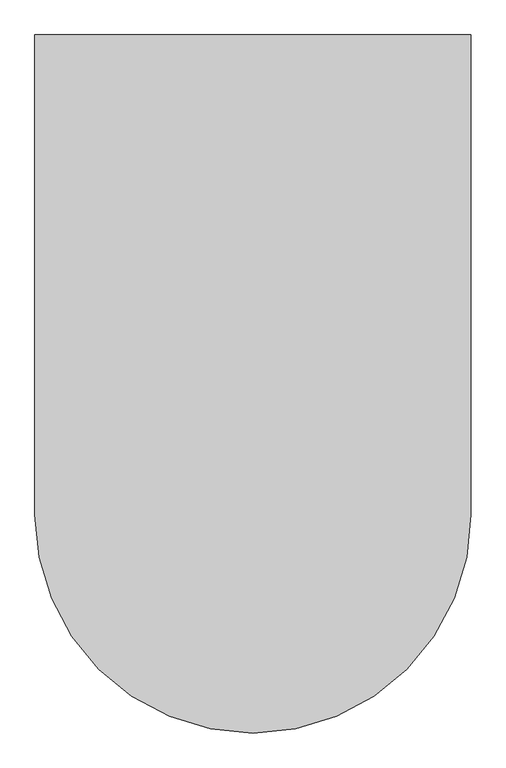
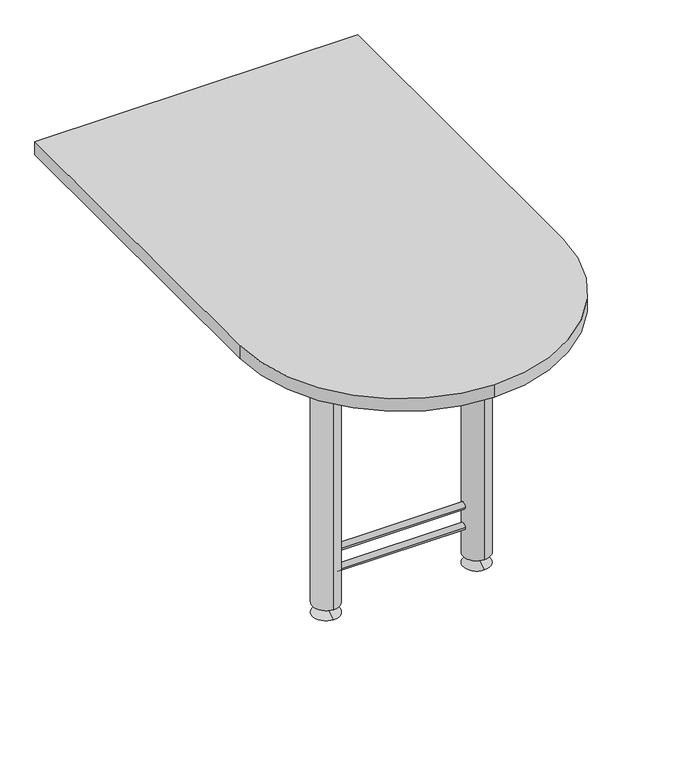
"""IFC4 building model written with IfcOpenShell, lengths in millimetres: furniture geometry."""

from ifc_helpers import new_model, si_unit, point, frame, frame_2d, origin, place, context, project, spatial, polyline, circle_curve, trimmed, segment, composite_curve, outline, extrude, source, transform, mapped, element, save
from ifc_brep_helpers import plane_surface, cylinder_surface, revolved_surface, advanced_brep


def furniture_d79be94d(model_context):
    return source(origin(), model_context, "Body", "SolidModel", [
        advanced_brep(
        [(-152.4, -457.2, 101.6), (-152.4, -449.2625, 101.6), (-152.4, -465.1375, 101.6), (152.4, -465.1375, 101.6), (152.4, -449.2625, 101.6), (152.4, -457.2, 101.6)],
        [
            (0, 1),
            (1, 2, circle_curve(frame((-152.4, -457.2, 101.6), z_axis=(-1.0, 0.0, 0.0), x_axis=(0.0, 1.0, 0.0)), 7.9375)),
            (2, 0),
            (2, 1, circle_curve(frame((-152.4, -457.2, 101.6), z_axis=(-1.0, 0.0, 0.0), x_axis=(0.0, 1.0, 0.0)), 7.9375)),
            (3, 4, circle_curve(frame((152.4, -457.2, 101.6), z_axis=(1.0, 0.0, 0.0), x_axis=(0.0, 1.0, 0.0)), 7.9375)),
            (4, 5),
            (5, 3),
            (4, 3, circle_curve(frame((152.4, -457.2, 101.6), z_axis=(1.0, 0.0, 0.0), x_axis=(0.0, 1.0, 0.0)), 7.9375)),
            (1, 4),
            (3, 2),
        ],
        [
            plane_surface(frame((-152.4, -457.2, 101.6), z_axis=(-1.0, 0.0, 0.0), x_axis=(0.0, 1.0, 0.0))),
            plane_surface(frame((152.4, -457.2, 101.6), z_axis=(1.0, 0.0, 0.0), x_axis=(0.0, 1.0, 0.0))),
            cylinder_surface(frame((-171.45, -457.2, 101.6), z_axis=(-1.0, 0.0, 0.0), x_axis=(0.0, 1.0, 0.0)), 7.9375),
        ],
        [
            (0, [[1, 2, 3]]),
            (0, [[-3, 4, -1]]),
            (1, [[5, 6, 7]]),
            (1, [[8, -7, -6]]),
            (2, [[-2, 9, -5, 10]]),
            (2, [[-4, -10, -8, -9]]),
        ],
    ),
        advanced_brep(
        [(-152.4, -457.2, 152.4), (-152.4, -449.2625, 152.4), (-152.4, -465.1375, 152.4), (152.4, -465.1375, 152.4), (152.4, -449.2625, 152.4), (152.4, -457.2, 152.4)],
        [
            (0, 1),
            (1, 2, circle_curve(frame((-152.4, -457.2, 152.4), z_axis=(-1.0, 0.0, 0.0), x_axis=(0.0, 1.0, 0.0)), 7.9375)),
            (2, 0),
            (2, 1, circle_curve(frame((-152.4, -457.2, 152.4), z_axis=(-1.0, 0.0, 0.0), x_axis=(0.0, 1.0, 0.0)), 7.9375)),
            (3, 4, circle_curve(frame((152.4, -457.2, 152.4), z_axis=(1.0, 0.0, 0.0), x_axis=(0.0, 1.0, 0.0)), 7.9375)),
            (4, 5),
            (5, 3),
            (4, 3, circle_curve(frame((152.4, -457.2, 152.4), z_axis=(1.0, 0.0, 0.0), x_axis=(0.0, 1.0, 0.0)), 7.9375)),
            (1, 4),
            (3, 2),
        ],
        [
            plane_surface(frame((-152.4, -457.2, 152.4), z_axis=(-1.0, 0.0, 0.0), x_axis=(0.0, 1.0, 0.0))),
            plane_surface(frame((152.4, -457.2, 152.4), z_axis=(1.0, 0.0, 0.0), x_axis=(0.0, 1.0, 0.0))),
            cylinder_surface(frame((-158.75, -457.2, 152.4), z_axis=(-1.0, 0.0, 0.0), x_axis=(0.0, 1.0, 0.0)), 7.9375),
        ],
        [
            (0, [[1, 2, 3]]),
            (0, [[-3, 4, -1]]),
            (1, [[5, 6, 7]]),
            (1, [[8, -7, -6]]),
            (2, [[-2, 9, -5, 10]]),
            (2, [[-4, -10, -8, -9]]),
        ],
    ),
        advanced_brep(
        [(-152.4, -465.1375, 546.1), (-152.4, -449.2625, 546.1), (152.4, -449.2625, 546.1), (152.4, -465.1375, 546.1), (-152.4, -457.2, 546.1), (152.4, -457.2, 546.1)],
        [
            (0, 1, circle_curve(frame((-152.4, -457.2, 546.1), z_axis=(1.0, 0.0, 0.0), x_axis=(0.0, 1.0, 0.0)), 7.9375)),
            (1, 2),
            (2, 3, circle_curve(frame((152.4, -457.2, 546.1), z_axis=(-1.0, 0.0, 0.0), x_axis=(0.0, 1.0, 0.0)), 7.9375)),
            (3, 0),
            (1, 0, circle_curve(frame((-152.4, -457.2, 546.1), z_axis=(1.0, 0.0, 0.0), x_axis=(0.0, 1.0, 0.0)), 7.9375)),
            (3, 2, circle_curve(frame((152.4, -457.2, 546.1), z_axis=(-1.0, 0.0, 0.0), x_axis=(0.0, 1.0, 0.0)), 7.9375)),
            (4, 1),
            (0, 4),
            (2, 5),
            (5, 3),
        ],
        [
            cylinder_surface(frame((-158.75, -457.2, 546.1), z_axis=(-1.0, 0.0, 0.0), x_axis=(0.0, 1.0, 0.0)), 7.9375),
            plane_surface(frame((-152.4, -457.2, 546.1), z_axis=(-1.0, 0.0, 0.0), x_axis=(0.0, 1.0, 0.0))),
            plane_surface(frame((152.4, -457.2, 546.1), z_axis=(1.0, 0.0, 0.0), x_axis=(0.0, 1.0, 0.0))),
        ],
        [
            (0, [[1, 2, 3, 4]]),
            (0, [[5, -4, 6, -2]]),
            (1, [[7, -1, 8]]),
            (1, [[-8, -5, -7]]),
            (2, [[-3, 9, 10]]),
            (2, [[-6, -10, -9]]),
        ],
    ),
        advanced_brep(
        [(-177.8, -488.95, 25.4), (-177.8, -425.45, 25.4), (-177.8, -425.45, 704.85), (-177.8, -488.95, 704.85), (-177.8, -466.725, 25.4), (-177.8, -447.675, 25.4), (-177.8, -466.725, 12.7), (-177.8, -447.675, 12.7), (-177.8, -488.95, 0.0), (-177.8, -425.45, 0.0), (-177.8, -457.2, 0.0), (-177.8, -457.2, 704.85)],
        [
            (0, 1, circle_curve(frame((-177.8, -457.2, 25.4), z_axis=(0.0, 0.0, 1.0), x_axis=(0.0, 1.0, 0.0)), 31.75)),
            (1, 2),
            (2, 3, circle_curve(frame((-177.8, -457.2, 704.85), z_axis=(0.0, 0.0, -1.0), x_axis=(0.0, 1.0, 0.0)), 31.75)),
            (3, 0),
            (1, 0, circle_curve(frame((-177.8, -457.2, 25.4), z_axis=(0.0, 0.0, 1.0), x_axis=(0.0, 1.0, 0.0)), 31.75)),
            (3, 2, circle_curve(frame((-177.8, -457.2, 704.85), z_axis=(0.0, 0.0, -1.0), x_axis=(0.0, 1.0, 0.0)), 31.75)),
            (0, 4),
            (4, 5, circle_curve(frame((-177.8, -457.2, 25.4), z_axis=(0.0, 0.0, 1.0), x_axis=(0.0, 1.0, 0.0)), 9.525)),
            (5, 1),
            (5, 4, circle_curve(frame((-177.8, -457.2, 25.4), z_axis=(0.0, 0.0, 1.0), x_axis=(0.0, 1.0, 0.0)), 9.525)),
            (4, 6),
            (6, 7, circle_curve(frame((-177.8, -457.2, 12.7), z_axis=(0.0, 0.0, 1.0), x_axis=(0.0, 1.0, 0.0)), 9.525)),
            (7, 5),
            (7, 6, circle_curve(frame((-177.8, -457.2, 12.7), z_axis=(0.0, 0.0, 1.0), x_axis=(0.0, 1.0, 0.0)), 9.525)),
            (6, 8),
            (8, 9, circle_curve(frame((-177.8, -457.2, 0.0), z_axis=(0.0, 0.0, 1.0), x_axis=(0.0, 1.0, 0.0)), 31.75)),
            (9, 7),
            (9, 8, circle_curve(frame((-177.8, -457.2, 0.0), z_axis=(0.0, 0.0, 1.0), x_axis=(0.0, 1.0, 0.0)), 31.75)),
            (8, 10),
            (10, 9),
            (2, 11),
            (11, 3),
        ],
        [
            cylinder_surface(frame((-177.8, -457.2, -19.05), z_axis=(0.0, 0.0, -1.0), x_axis=(0.0, 1.0, 0.0)), 31.75),
            plane_surface(frame((-177.8, -457.2, 25.4), z_axis=(0.0, 0.0, -1.0), x_axis=(0.0, 1.0, 0.0))),
            cylinder_surface(frame((-177.8, -457.2, -19.05), z_axis=(0.0, 0.0, -1.0), x_axis=(0.0, 1.0, 0.0)), 9.525),
            revolved_surface(polyline([(-177.8, -447.675, 12.7), (-177.8, -425.45, 0.0)]), (-177.8, -457.2, -19.05), (0.0, 0.0, -1.0)),
            plane_surface(frame((-177.8, -457.2, 0.0), z_axis=(0.0, 0.0, -1.0), x_axis=(0.0, 1.0, 0.0))),
            plane_surface(frame((-177.8, -457.2, 704.85), z_axis=(0.0, 0.0, 1.0), x_axis=(0.0, 1.0, 0.0))),
        ],
        [
            (0, [[1, 2, 3, 4]]),
            (0, [[-2, 5, -4, 6]]),
            (1, [[-1, 7, 8, 9]]),
            (1, [[-5, -9, 10, -7]]),
            (2, [[-8, 11, 12, 13]]),
            (2, [[-10, -13, 14, -11]]),
            (3, [[-12, 15, 16, 17]]),
            (3, [[-14, -17, 18, -15]]),
            (4, [[-16, 19, 20]]),
            (4, [[-18, -20, -19]]),
            (5, [[-3, 21, 22]]),
            (5, [[-6, -22, -21]]),
        ],
    ),
        advanced_brep(
        [(177.8, -457.2, 704.85), (177.8, -425.45, 704.85), (177.8, -488.95, 704.85), (177.8, -488.95, 0.0), (177.8, -425.45, 0.0), (177.8, -457.2, 0.0), (177.8, -466.725, 12.7), (177.8, -447.675, 12.7), (177.8, -466.725, 25.4), (177.8, -447.675, 25.4), (177.8, -488.95, 25.4), (177.8, -425.45, 25.4)],
        [
            (0, 1),
            (1, 2, circle_curve(frame((177.8, -457.2, 704.85), z_axis=(0.0, 0.0, 1.0), x_axis=(0.0, 1.0, 0.0)), 31.75)),
            (2, 0),
            (2, 1, circle_curve(frame((177.8, -457.2, 704.85), z_axis=(0.0, 0.0, 1.0), x_axis=(0.0, 1.0, 0.0)), 31.75)),
            (3, 4, circle_curve(frame((177.8, -457.2, 0.0), z_axis=(0.0, 0.0, -1.0), x_axis=(0.0, 1.0, 0.0)), 31.75)),
            (4, 5),
            (5, 3),
            (4, 3, circle_curve(frame((177.8, -457.2, 0.0), z_axis=(0.0, 0.0, -1.0), x_axis=(0.0, 1.0, 0.0)), 31.75)),
            (3, 6),
            (6, 7, circle_curve(frame((177.8, -457.2, 12.7), z_axis=(0.0, 0.0, -1.0), x_axis=(0.0, 1.0, 0.0)), 9.525)),
            (7, 4),
            (7, 6, circle_curve(frame((177.8, -457.2, 12.7), z_axis=(0.0, 0.0, -1.0), x_axis=(0.0, 1.0, 0.0)), 9.525)),
            (6, 8),
            (8, 9, circle_curve(frame((177.8, -457.2, 25.4), z_axis=(0.0, 0.0, -1.0), x_axis=(0.0, 1.0, 0.0)), 9.525)),
            (9, 7),
            (9, 8, circle_curve(frame((177.8, -457.2, 25.4), z_axis=(0.0, 0.0, -1.0), x_axis=(0.0, 1.0, 0.0)), 9.525)),
            (8, 10),
            (10, 11, circle_curve(frame((177.8, -457.2, 25.4), z_axis=(0.0, 0.0, -1.0), x_axis=(0.0, 1.0, 0.0)), 31.75)),
            (11, 9),
            (11, 10, circle_curve(frame((177.8, -457.2, 25.4), z_axis=(0.0, 0.0, -1.0), x_axis=(0.0, 1.0, 0.0)), 31.75)),
            (1, 11),
            (10, 2),
        ],
        [
            plane_surface(frame((177.8, -457.2, 704.85), z_axis=(0.0, 0.0, 1.0), x_axis=(0.0, 1.0, 0.0))),
            plane_surface(frame((177.8, -457.2, 0.0), z_axis=(0.0, 0.0, -1.0), x_axis=(0.0, 1.0, 0.0))),
            revolved_surface(polyline([(177.8, -425.45, 0.0), (177.8, -447.675, 12.7)]), (177.8, -457.2, -19.05), (0.0, 0.0, 1.0)),
            cylinder_surface(frame((177.8, -457.2, -19.05), z_axis=(0.0, 0.0, 1.0), x_axis=(0.0, 1.0, 0.0)), 9.525),
            plane_surface(frame((177.8, -457.2, 25.4), z_axis=(0.0, 0.0, -1.0), x_axis=(0.0, 1.0, 0.0))),
            cylinder_surface(frame((177.8, -457.2, -19.05), z_axis=(0.0, 0.0, 1.0), x_axis=(0.0, 1.0, 0.0)), 31.75),
        ],
        [
            (0, [[1, 2, 3]]),
            (0, [[-1, -3, 4]]),
            (1, [[5, 6, 7]]),
            (1, [[-6, 8, -7]]),
            (2, [[-5, 9, 10, 11]]),
            (2, [[-8, -11, 12, -9]]),
            (3, [[-10, 13, 14, 15]]),
            (3, [[-12, -15, 16, -13]]),
            (4, [[-14, 17, 18, 19]]),
            (4, [[-16, -19, 20, -17]]),
            (5, [[-2, 21, -18, 22]]),
            (5, [[-4, -22, -20, -21]]),
        ],
    ),
        advanced_brep(
        [(-152.4, -465.1375, 596.9), (-152.4, -449.2625, 596.9), (152.4, -449.2625, 596.9), (152.4, -465.1375, 596.9), (-152.4, -457.2, 596.9), (152.4, -457.2, 596.9)],
        [
            (0, 1, circle_curve(frame((-152.4, -457.2, 596.9), z_axis=(1.0, 0.0, 0.0), x_axis=(0.0, 1.0, 0.0)), 7.9375)),
            (1, 2),
            (2, 3, circle_curve(frame((152.4, -457.2, 596.9), z_axis=(-1.0, 0.0, 0.0), x_axis=(0.0, 1.0, 0.0)), 7.9375)),
            (3, 0),
            (1, 0, circle_curve(frame((-152.4, -457.2, 596.9), z_axis=(1.0, 0.0, 0.0), x_axis=(0.0, 1.0, 0.0)), 7.9375)),
            (3, 2, circle_curve(frame((152.4, -457.2, 596.9), z_axis=(-1.0, 0.0, 0.0), x_axis=(0.0, 1.0, 0.0)), 7.9375)),
            (4, 1),
            (0, 4),
            (2, 5),
            (5, 3),
        ],
        [
            cylinder_surface(frame((173.1827696, -457.2, 596.9), z_axis=(-1.0, 0.0, 0.0), x_axis=(0.0, 1.0, 0.0)), 7.9375),
            plane_surface(frame((-152.4, -457.2, 596.9), z_axis=(-1.0, 0.0, 0.0), x_axis=(0.0, 1.0, 0.0))),
            plane_surface(frame((152.4, -457.2, 596.9), z_axis=(1.0, 0.0, 0.0), x_axis=(0.0, 1.0, 0.0))),
        ],
        [
            (0, [[1, 2, 3, 4]]),
            (0, [[5, -4, 6, -2]]),
            (1, [[7, -1, 8]]),
            (1, [[-8, -5, -7]]),
            (2, [[-3, 9, 10]]),
            (2, [[-6, -10, -9]]),
        ],
    ),
        extrude(outline(composite_curve([segment(polyline([(381.0, 381.0), (381.0, -457.2)]), True, "CONTINUOUS"), segment(trimmed(circle_curve(frame_2d((0.0, -457.2)), 381.0), [point((381.0, -457.2))], [point((0.0, -838.2))], False, "CARTESIAN"), True, "CONTINUOUS"), segment(trimmed(circle_curve(frame_2d((0.0, -457.2)), 381.0), [point((0.0, -838.2))], [point((-381.0, -457.2))], False, "CARTESIAN"), True, "CONTINUOUS"), segment(polyline([(-381.0, -457.2), (-381.0, 381.0), (381.0, 381.0)]), True, "CONTINUOUS")], self_intersect=False)), frame((0.0, 0.0, 704.85), z_axis=(0.0, 0.0, 1.0), x_axis=(1.0, 0.0, 0.0)), (0.0, 0.0, 1.0), 31.75),
    ])


if __name__ == "__main__":
    model = new_model("IFC4")
    model_context = context("Model", 3, world=origin())
    ifc_project = project(units=[si_unit("LENGTHUNIT", "METRE", prefix="MILLI")], contexts=[model_context])
    site = spatial("IfcSite", under=ifc_project)
    building = spatial("IfcBuilding", under=site)
    placement = place(None, origin())
    furniture_shape = furniture_d79be94d(model_context)
    element("IfcFurniture", 1, ObjectType="HermanMiller_ActionOffice_A2350_Sq-EdgeRound-EndPeninsula : 30\"D x 48\"W", at=placement, inside=building, context=model_context, shape_type="MappedRepresentation", body=[
        mapped(furniture_shape, transform((0.0, 0.0, 0.0), x_axis=(1.0, 0.0, 0.0), y_axis=(0.0, 1.0, 0.0), z_axis=(0.0, 0.0, 1.0))),
    ])
    save(model, "model.ifc")
